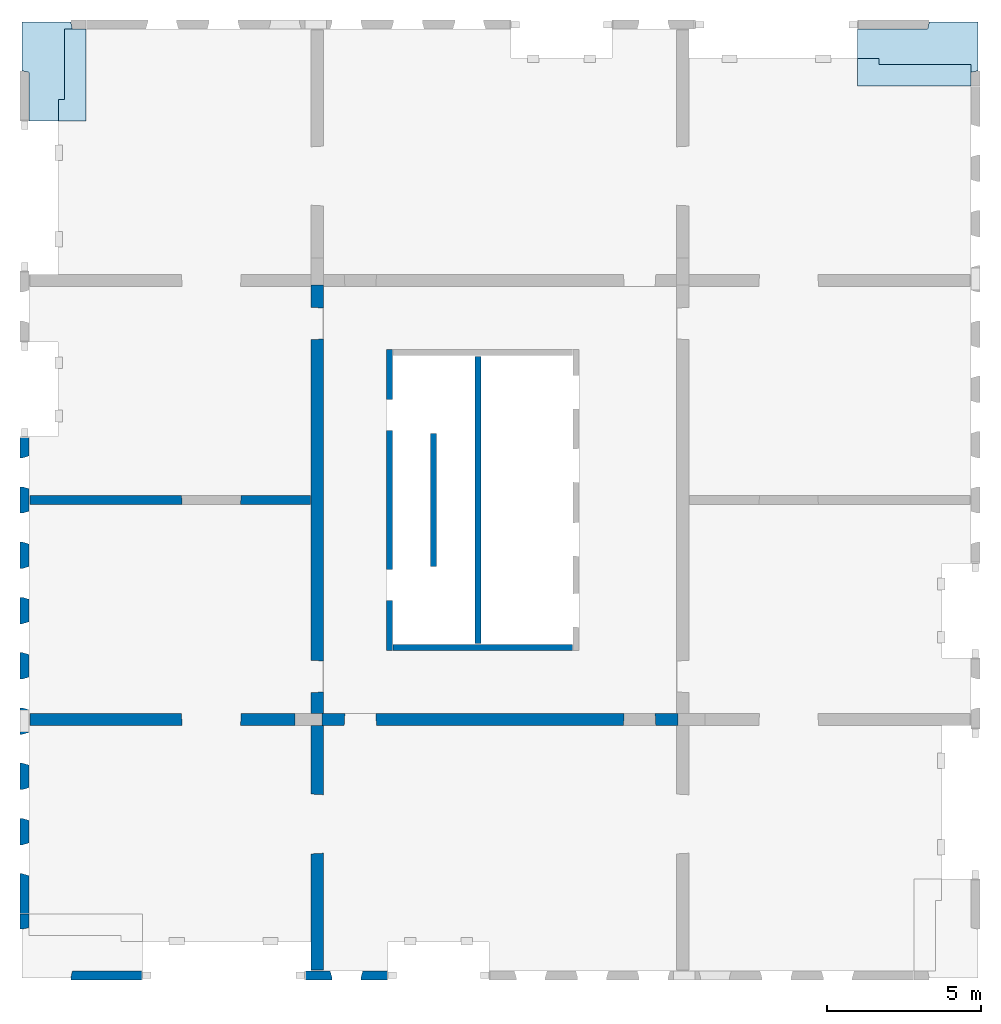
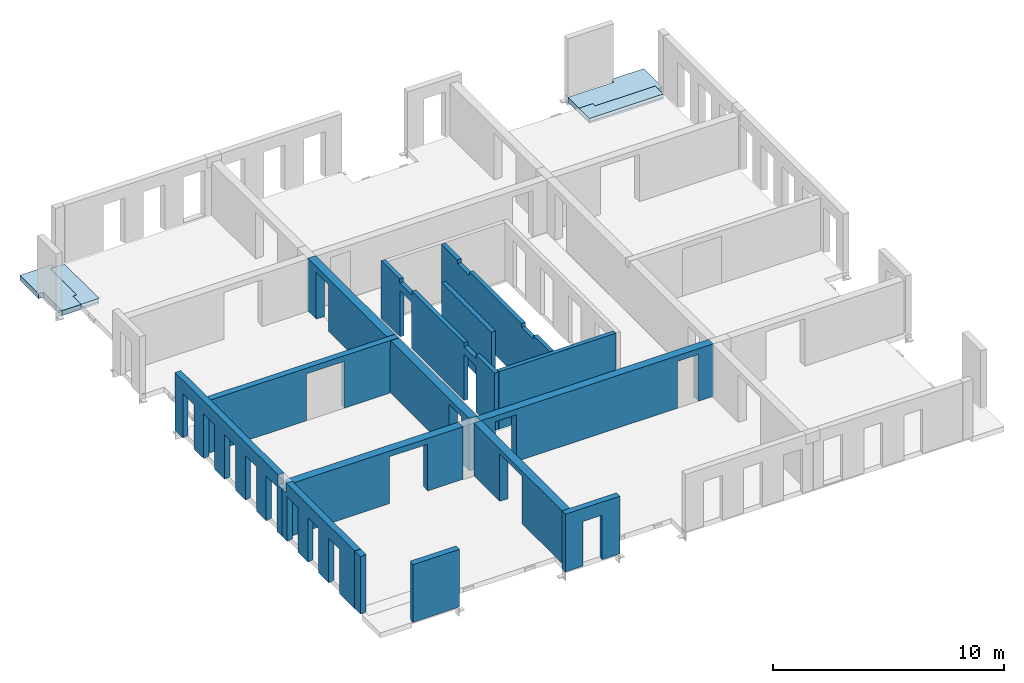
# One storey, part 2 of 4: 14 walls, 4 slabs, 34 openings.
"""IFC2X3 building model written with IfcOpenShell, lengths in millimetres."""

from ifc_helpers import new_model, entity, si_unit, converted_unit, derived_unit, direction, frame, frame_2d, origin, place, context, subcontext, project, spatial, polyline, rectangle, outline, extrude, faceted_brep, material, layer, layer_set, layer_usage, type_object, element, save


model = new_model("IFC2X3")

# Units and contexts
model_context = context("Model", 3, precision=0.01, world=origin(), true_north=direction((6.12303176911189e-17, 1.0)))
body_context = subcontext(model_context, "Body", "Model", "MODEL_VIEW")
ifc_project = project(units=[si_unit("LENGTHUNIT", "METRE", prefix="MILLI"), si_unit("AREAUNIT", "SQUARE_METRE"), si_unit("VOLUMEUNIT", "CUBIC_METRE"), converted_unit("PLANEANGLEUNIT", "DEGREE", entity("IfcRatioMeasure", 0.0174532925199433), si_unit("PLANEANGLEUNIT", "RADIAN"), dimensions=[0, 0, 0, 0, 0, 0, 0]), si_unit("MASSUNIT", "GRAM", prefix="KILO"), derived_unit("MASSDENSITYUNIT", [(si_unit("MASSUNIT", "GRAM", prefix="KILO"), 1), (si_unit("LENGTHUNIT", "METRE"), -3)]), si_unit("TIMEUNIT", "SECOND"), si_unit("FREQUENCYUNIT", "HERTZ"), si_unit("THERMODYNAMICTEMPERATUREUNIT", "DEGREE_CELSIUS"), derived_unit("THERMALTRANSMITTANCEUNIT", [(si_unit("MASSUNIT", "GRAM", prefix="KILO"), 1), (si_unit("THERMODYNAMICTEMPERATUREUNIT", "KELVIN"), -1), (si_unit("TIMEUNIT", "SECOND"), -3)]), derived_unit("VOLUMETRICFLOWRATEUNIT", [(si_unit("LENGTHUNIT", "METRE"), 3), (si_unit("TIMEUNIT", "SECOND"), -1)]), si_unit("ELECTRICCURRENTUNIT", "AMPERE"), si_unit("ELECTRICVOLTAGEUNIT", "VOLT"), si_unit("POWERUNIT", "WATT"), si_unit("FORCEUNIT", "NEWTON", prefix="KILO"), si_unit("ILLUMINANCEUNIT", "LUX"), si_unit("LUMINOUSFLUXUNIT", "LUMEN"), si_unit("LUMINOUSINTENSITYUNIT", "CANDELA"), derived_unit("USERDEFINED", [(si_unit("MASSUNIT", "GRAM", prefix="KILO"), -1), (si_unit("LENGTHUNIT", "METRE"), -2), (si_unit("TIMEUNIT", "SECOND"), 3), (si_unit("LUMINOUSFLUXUNIT", "LUMEN"), 1)]), derived_unit("LINEARVELOCITYUNIT", [(si_unit("LENGTHUNIT", "METRE"), 1), (si_unit("TIMEUNIT", "SECOND"), -1)]), si_unit("PRESSUREUNIT", "PASCAL"), derived_unit("USERDEFINED", [(si_unit("LENGTHUNIT", "METRE"), -2), (si_unit("MASSUNIT", "GRAM", prefix="KILO"), 1), (si_unit("TIMEUNIT", "SECOND"), -2)])], contexts=[model_context])

# Site, building, storey
site_placement = place(None, origin())
site = spatial("IfcSite", under=ifc_project, at=site_placement, Name="Default", CompositionType="ELEMENT")
building_placement = place(site_placement, origin())
building = spatial("IfcBuilding", under=site, at=building_placement, Name="niet gebruiken", CompositionType="ELEMENT")
storey_placement = place(building_placement, frame((0.0, 0.0, 106740.0)))
storey = spatial("IfcBuildingStorey", under=building, at=storey_placement, Name="34 vierendertigste verdieping", CompositionType="ELEMENT", Elevation=106740.0)

# Slabs
ifc_material_1 = material(Name="NLRS_f2_beton prefab")
ifc_layer_1 = layer(ifc_material_1, 270.0)
ifc_layer_set_1 = layer_set([ifc_layer_1], Name="Floor:NLRS_23.22_FL_beton prefab d=270 3D element_gen")
ifc_layer_usage_1 = layer_usage(ifc_layer_set_1, "AXIS3", "POSITIVE", 0.0)
slab_1_placement = place(storey_placement, origin())
element("IfcSlab", 1, at=slab_1_placement, inside=storey, material=ifc_layer_usage_1, Name="Floor:NLRS_23.22_FL_beton prefab d=270 3D element_gen", ObjectType="Floor:NLRS_23.22_FL_beton prefab d=270 3D element_gen", PredefinedType="LANDING", context=body_context, shape_type="SweptSolid", body=[
    extrude(outline(polyline([(-322.675940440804, -982.471394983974), (1267.47139498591, -982.471394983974), (1267.47139498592, 607.675940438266), (1034.47139498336, 655.152429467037), (1034.47139498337, 1100.5286050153), (-1955.52860501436, 1100.52860501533), (-1955.52860501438, -749.471394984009), (-370.152429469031, -749.471394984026), (-322.675940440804, -982.471394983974)])), frame((127169.471394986, 31795.5286050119, -90.0), z_axis=(0.0, 0.0, -1.0), x_axis=(0.0, 1.0, 0.0)), (0.0, 0.0, 1.0), 270.000000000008),
])
ifc_material_2 = material(Name="NLRS_f2_beton ihwg")
ifc_layer_2 = layer(ifc_material_2, 170.0)
ifc_layer_set_2 = layer_set([ifc_layer_2], Name="Floor:NLRS_23.21_FL_beton ihwg d=170_gen")
ifc_layer_usage_2 = layer_usage(ifc_layer_set_2, "AXIS3", "POSITIVE", 0.0)
slab_2_placement = place(storey_placement, origin())
element("IfcSlab", 2, at=slab_2_placement, inside=storey, material=ifc_layer_usage_2, Name="Floor:NLRS_23.21_FL_beton ihwg d=170_gen", ObjectType="Floor:NLRS_23.21_FL_beton ihwg d=170_gen", PredefinedType="FLOOR", context=body_context, shape_type="SweptSolid", body=[
    extrude(outline(polyline([(-1230.0, -366.666666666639), (-530.0, -366.666666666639), (-530.0, -166.66666666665), (1760.0, -166.666666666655), (1760.0, 533.333333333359), (-1230.0, 533.333333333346), (-1230.0, -366.666666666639)])), frame((127736.666666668, 31070.0, -90.0), z_axis=(0.0, 0.0, -1.0), x_axis=(0.0, 1.0, 0.0)), (0.0, 0.0, 1.0), 169.999999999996),
])
ifc_layer_usage_3 = layer_usage(ifc_layer_set_1, "AXIS3", "POSITIVE", 0.0)
slab_3_placement = place(storey_placement, origin())
element("IfcSlab", 3, at=slab_3_placement, inside=storey, material=ifc_layer_usage_3, Name="Floor:NLRS_23.22_FL_beton prefab d=270 3D element_gen", ObjectType="Floor:NLRS_23.22_FL_beton prefab d=270 3D element_gen", PredefinedType="LANDING", context=body_context, shape_type="SweptSolid", body=[
    extrude(outline(polyline([(-1100.52860501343, -2480.52860501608), (749.471394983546, -2480.52860501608), (749.471394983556, -195.152429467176), (982.471394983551, -147.675940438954), (982.471394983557, 1442.47139498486), (-607.675940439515, 1442.47139498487), (-655.152429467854, 1209.47139498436), (-1100.52860501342, 1209.47139498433), (-1100.52860501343, -2480.52860501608)])), frame((155870.528605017, 32080.5286050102, -90.0), z_axis=(0.0, 0.0, -1.0), x_axis=(0.0, 1.0, 0.0)), (0.0, 0.0, 1.0), 270.000000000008),
])
ifc_layer_usage_4 = layer_usage(ifc_layer_set_2, "AXIS3", "POSITIVE", 0.0)
slab_4_placement = place(storey_placement, origin())
element("IfcSlab", 4, at=slab_4_placement, inside=storey, material=ifc_layer_usage_4, Name="Floor:NLRS_23.21_FL_beton ihwg d=170_gen", ObjectType="Floor:NLRS_23.21_FL_beton ihwg d=170_gen", PredefinedType="FLOOR", context=body_context, shape_type="SweptSolid", body=[
    extrude(outline(polyline([(-533.333333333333, -1463.33333333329), (366.666666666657, -1463.33333333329), (366.666666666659, -763.333333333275), (166.66666666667, -763.333333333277), (166.666666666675, 2226.66666666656), (-533.333333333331, 2226.66666666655), (-533.333333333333, -1463.33333333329)])), frame((154853.333333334, 31513.3333333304, -90.0), z_axis=(0.0, 0.0, -1.0), x_axis=(0.0, 1.0, 0.0)), (0.0, 0.0, 1.0), 169.999999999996),
])

# Wall, openings
ifc_layer_3 = layer(ifc_material_1, 200.0)
ifc_layer_set_3 = layer_set([ifc_layer_3], Name="Basic Wall:NLRS_22.21_WA_beton prefab d=200_gen")
ifc_layer_usage_5 = layer_usage(ifc_layer_set_3, "AXIS2", "NEGATIVE", 100.0)
wall_type_1 = type_object("IfcWallType", Name="Basic Wall:NLRS_22.21_WA_beton prefab d=200_gen", PredefinedType="STANDARD", material=ifc_layer_set_3)
wall_1_placement = place(storey_placement, frame((138150.0, 22400.0, -50.0), z_axis=(0.0, 0.0, 1.0), x_axis=(0.0, -1.0, 0.0)))
wall_1 = element("IfcWallStandardCase", 5, at=wall_1_placement, inside=storey, type_object=wall_type_1, material=ifc_layer_usage_5, Name="Basic Wall:NLRS_22.21_WA_beton prefab d=200_gen", ObjectType="Basic Wall:NLRS_22.21_WA_beton prefab d=200_gen", context=body_context, shape_type="SweptSolid", body=[
    extrude(rectangle(XDim=9800.0, YDim=199.999999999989, at=frame_2d((4900.0, 3.76587649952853e-13), x_axis=(-1.0, 0.0))), origin(), (0.0, 0.0, 1.0), 3040.0),
])
opening_1_placement = place(wall_1_placement, origin())
element("IfcOpeningElement", 6, at=opening_1_placement, cuts=wall_1, Name="Basic Wall:NLRS_22.21_WA_beton prefab d=200_gen", ObjectType="Opening", context=body_context, shape_type="SweptSolid", body=[
    extrude(rectangle(XDim=200.000000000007, YDim=1044.0, at=frame_2d((8.66862137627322e-12, 0.0), x_axis=(1.0, 0.0))), frame((7672.0, -100.0, 2940.0), z_axis=(0.0, 1.0, 0.0), x_axis=(0.0, 0.0, -1.0)), (0.0, 0.0, 1.0), 199.999999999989),
])
opening_2_placement = place(wall_1_placement, origin())
element("IfcOpeningElement", 7, at=opening_2_placement, cuts=wall_1, Name="Basic Wall:NLRS_22.21_WA_beton prefab d=200_gen", ObjectType="Opening", context=body_context, shape_type="SweptSolid", body=[
    extrude(rectangle(XDim=200.000000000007, YDim=1044.0, at=frame_2d((8.66862137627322e-12, 2.1600499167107e-12), x_axis=(1.0, 0.0))), frame((2128.0, -100.0, 2940.0), z_axis=(0.0, 1.0, 0.0), x_axis=(0.0, 0.0, -1.0)), (0.0, 0.0, 1.0), 199.999999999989),
])
opening_3_placement = place(wall_1_placement, origin())
element("IfcOpeningElement", 8, at=opening_3_placement, cuts=wall_1, Name="Basic Wall:NLRS_22.21_WA_beton prefab d=200_gen", ObjectType="Opening", context=body_context, shape_type="SweptSolid", body=[
    extrude(rectangle(XDim=2435.0, YDim=1015.99999999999, at=frame_2d((0.0, 1.10844666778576e-12), x_axis=(1.0, 0.0))), frame((7672.0, -100.0, 1217.50000000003), z_axis=(0.0, 1.0, 0.0), x_axis=(0.0, 0.0, -1.0)), (0.0, 0.0, 1.0), 199.999999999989),
])
opening_4_placement = place(wall_1_placement, origin())
element("IfcOpeningElement", 9, at=opening_4_placement, cuts=wall_1, Name="Basic Wall:NLRS_22.21_WA_beton prefab d=200_gen", ObjectType="Opening", context=body_context, shape_type="SweptSolid", body=[
    extrude(rectangle(XDim=2435.0, YDim=1015.99999999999, at=frame_2d((0.0, -2.18847162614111e-12), x_axis=(1.0, 0.0))), frame((2128.0, -100.0, 1217.50000000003), z_axis=(0.0, 1.0, 0.0), x_axis=(0.0, 0.0, -1.0)), (0.0, 0.0, 1.0), 199.999999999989),
])

ifc_layer_usage_6 = layer_usage(ifc_layer_set_3, "AXIS2", "NEGATIVE", 100.0)
wall_2_placement = place(storey_placement, frame((141030.0, 22180.0, -50.0), z_axis=(0.0, 0.0, 1.0), x_axis=(0.0, -1.0, 0.0)))
wall_2 = element("IfcWallStandardCase", 10, at=wall_2_placement, inside=storey, type_object=wall_type_1, material=ifc_layer_usage_6, Name="Basic Wall:NLRS_22.21_WA_beton prefab d=200_gen", ObjectType="Basic Wall:NLRS_22.21_WA_beton prefab d=200_gen", context=body_context, shape_type="SweptSolid", body=[
    extrude(rectangle(XDim=9360.0, YDim=199.999999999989, at=frame_2d((4680.0, -2.8421709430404e-14), x_axis=(-1.0, 0.0))), origin(), (0.0, 0.0, 1.0), 3040.0),
])
opening_5_placement = place(wall_2_placement, origin())
element("IfcOpeningElement", 11, at=opening_5_placement, cuts=wall_2, Name="Basic Wall:NLRS_22.21_WA_beton prefab d=200_gen", ObjectType="Opening", context=body_context, shape_type="SweptSolid", body=[
    extrude(rectangle(XDim=70.0000000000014, YDim=1044.00000000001, at=frame_2d((-8.66506866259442e-12, 0.0), x_axis=(1.0, 0.0))), frame((7452.0, -100.0, 35.0), z_axis=(0.0, 1.0, 0.0), x_axis=(0.0, 0.0, -1.0)), (0.0, 0.0, 1.0), 199.999999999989),
])
opening_6_placement = place(wall_2_placement, origin())
element("IfcOpeningElement", 12, at=opening_6_placement, cuts=wall_2, Name="Basic Wall:NLRS_22.21_WA_beton prefab d=200_gen", ObjectType="Opening", context=body_context, shape_type="SweptSolid", body=[
    extrude(rectangle(XDim=70.0000000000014, YDim=1044.00000000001, at=frame_2d((-8.66506866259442e-12, 0.0), x_axis=(1.0, 0.0))), frame((1908.0, -100.0, 35.0), z_axis=(0.0, 1.0, 0.0), x_axis=(0.0, 0.0, -1.0)), (0.0, 0.0, 1.0), 199.999999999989),
])
opening_7_placement = place(wall_2_placement, origin())
element("IfcOpeningElement", 13, at=opening_7_placement, cuts=wall_2, Name="Basic Wall:NLRS_22.21_WA_beton prefab d=200_gen", ObjectType="Opening", context=body_context, shape_type="SweptSolid", body=[
    extrude(rectangle(XDim=200.000000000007, YDim=1044.00000000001, at=frame_2d((8.66862137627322e-12, 0.0), x_axis=(1.0, 0.0))), frame((1908.0, -100.0, 2940.0), z_axis=(0.0, 1.0, 0.0), x_axis=(0.0, 0.0, -1.0)), (0.0, 0.0, 1.0), 199.999999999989),
])
opening_8_placement = place(wall_2_placement, origin())
element("IfcOpeningElement", 14, at=opening_8_placement, cuts=wall_2, Name="Basic Wall:NLRS_22.21_WA_beton prefab d=200_gen", ObjectType="Opening", context=body_context, shape_type="SweptSolid", body=[
    extrude(rectangle(XDim=200.000000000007, YDim=1044.00000000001, at=frame_2d((8.66862137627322e-12, 0.0), x_axis=(1.0, 0.0))), frame((7452.0, -100.0, 2940.0), z_axis=(0.0, 1.0, 0.0), x_axis=(0.0, 0.0, -1.0)), (0.0, 0.0, 1.0), 199.999999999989),
])
opening_9_placement = place(wall_2_placement, origin())
element("IfcOpeningElement", 15, at=opening_9_placement, cuts=wall_2, Name="Basic Wall:NLRS_22.21_WA_beton prefab d=200_gen", ObjectType="Recess", context=body_context, shape_type="SweptSolid", body=[
    extrude(rectangle(XDim=399.999999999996, YDim=280.000000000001, at=frame_2d((-2.1600499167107e-12, -8.66862137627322e-12), x_axis=(0.0, 1.0))), frame((770.0, -60.0, 438.0), z_axis=(0.0, 1.0, 0.0), x_axis=(1.0, 0.0, 0.0)), (0.0, 0.0, 1.0), 159.999999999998),
])
opening_10_placement = place(wall_2_placement, origin())
element("IfcOpeningElement", 16, at=opening_10_placement, cuts=wall_2, Name="Basic Wall:NLRS_22.21_WA_beton prefab d=200_gen", ObjectType="Recess", context=body_context, shape_type="SweptSolid", body=[
    extrude(rectangle(XDim=399.999999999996, YDim=280.000000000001, at=frame_2d((-2.1600499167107e-12, -8.66862137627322e-12), x_axis=(0.0, 1.0))), frame((1570.0, -60.0, 438.0), z_axis=(0.0, 1.0, 0.0), x_axis=(1.0, 0.0, 0.0)), (0.0, 0.0, 1.0), 159.999999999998),
])
opening_11_placement = place(wall_2_placement, origin())
element("IfcOpeningElement", 17, at=opening_11_placement, cuts=wall_2, Name="Basic Wall:NLRS_22.21_WA_beton prefab d=200_gen", ObjectType="Recess", context=body_context, shape_type="SweptSolid", body=[
    extrude(rectangle(XDim=399.999999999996, YDim=279.999999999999, at=frame_2d((-1.08002495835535e-12, -8.66862137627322e-12), x_axis=(0.0, 1.0))), frame((3160.0, -60.0, 438.0), z_axis=(0.0, 1.0, 0.0), x_axis=(1.0, 0.0, 0.0)), (0.0, 0.0, 1.0), 159.999999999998),
])
opening_12_placement = place(wall_2_placement, origin())
element("IfcOpeningElement", 18, at=opening_12_placement, cuts=wall_2, Name="Basic Wall:NLRS_22.21_WA_beton prefab d=200_gen", ObjectType="Recess", context=body_context, shape_type="SweptSolid", body=[
    extrude(rectangle(XDim=399.999999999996, YDim=279.999999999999, at=frame_2d((1.08002495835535e-12, -8.66862137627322e-12), x_axis=(0.0, 1.0))), frame((3960.0, -60.0, 438.0), z_axis=(0.0, 1.0, 0.0), x_axis=(1.0, 0.0, 0.0)), (0.0, 0.0, 1.0), 159.999999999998),
])

# Walls
ifc_layer_usage_7 = layer_usage(ifc_layer_set_3, "AXIS2", "NEGATIVE", 100.0)
wall_3_placement = place(storey_placement, frame((139590.0, 19660.0, -50.0), z_axis=(0.0, 0.0, 1.0), x_axis=(0.0, -1.0, 0.0)))
element("IfcWallStandardCase", 19, at=wall_3_placement, inside=storey, type_object=wall_type_1, material=ifc_layer_usage_7, Name="Basic Wall:NLRS_22.21_WA_beton prefab d=200_gen", ObjectType="Basic Wall:NLRS_22.21_WA_beton prefab d=200_gen", context=body_context, shape_type="SweptSolid", body=[
    extrude(rectangle(XDim=4320.00000000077, YDim=199.999999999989, at=frame_2d((2160.00000000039, 0.0), x_axis=(-1.0, 0.0))), origin(), (0.0, 0.0, 1.0), 3040.0),
])
ifc_layer_usage_8 = layer_usage(ifc_layer_set_3, "AXIS2", "NEGATIVE", 100.0)
wall_4_placement = place(storey_placement, frame((138270.0, 12700.0, -50.0)))
element("IfcWallStandardCase", 20, at=wall_4_placement, inside=storey, type_object=wall_type_1, material=ifc_layer_usage_8, Name="Basic Wall:NLRS_22.21_WA_beton prefab d=200_gen", ObjectType="Basic Wall:NLRS_22.21_WA_beton prefab d=200_gen", context=body_context, shape_type="SweptSolid", body=[
    extrude(rectangle(XDim=5839.99999999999, YDim=199.999999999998, at=frame_2d((2919.99999999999, -6.82121026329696e-13), x_axis=(-1.0, 0.0))), origin(), (0.0, 0.0, 1.0), 3040.0),
])

# Wall, openings
ifc_layer_4 = layer(ifc_material_1, 300.0)
ifc_layer_set_4 = layer_set([ifc_layer_4], Name="Basic Wall:NLRS_22.21_WA_beton prefab d=300_gen")
ifc_layer_usage_9 = layer_usage(ifc_layer_set_4, "AXIS2", "NEGATIVE", 150.0)
wall_type_2 = type_object("IfcWallType", Name="Basic Wall:NLRS_22.21_WA_beton prefab d=300_gen", PredefinedType="STANDARD", material=ifc_layer_set_4)
wall_5_placement = place(storey_placement, frame((126440.0, 17500.0, -70.0)))
wall_5 = element("IfcWallStandardCase", 21, at=wall_5_placement, inside=storey, type_object=wall_type_2, material=ifc_layer_usage_9, Name="Basic Wall:NLRS_22.21_WA_beton prefab d=300_gen", ObjectType="Basic Wall:NLRS_22.21_WA_beton prefab d=300_gen", context=body_context, shape_type="SweptSolid", body=[
    extrude(rectangle(XDim=9559.9999999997, YDim=300.000000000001, at=frame_2d((4779.99999999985, -5.54223333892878e-13), x_axis=(-1.0, 0.0))), origin(), (0.0, 0.0, 1.0), 2769.99999999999),
])
opening_13_placement = place(wall_5_placement, frame((4942.0, -150.0, 0.0)))
element("IfcOpeningElement", 22, at=opening_13_placement, cuts=wall_5, Name="Basic Wall:NLRS_22.21_WA_beton prefab d=300_gen", ObjectType="Opening", context=body_context, shape_type="Brep", body=[
    faceted_brep([(1918.0, 0.0, 2470.0), (18.0, 0.0, 2470.0), (18.0, 0.0, 0.0), (1918.0, 0.0, 0.0), (1936.0, 300.0, 2488.0), (1936.0, 300.0, 0.0), (0.0, 300.0, 0.0), (0.0, 300.0, 2488.0)], [[[0, 1, 2, 3]], [[4, 5, 6, 7]], [[4, 7, 1, 0]], [[7, 6, 2, 1]], [[6, 5, 3, 2]], [[5, 4, 0, 3]]]),
])
opening_14_placement = place(wall_5_placement, origin())
element("IfcOpeningElement", 23, at=opening_14_placement, cuts=wall_5, Name="Basic Wall:NLRS_22.21_WA_beton prefab d=300_gen", ObjectType="Opening", context=body_context, shape_type="SweptSolid", body=[
    extrude(rectangle(XDim=2440.0, YDim=420.000000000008, at=frame_2d((0.0, 0.0), x_axis=(0.0, 1.0))), frame((9350.0, 150.0, 1220.0), z_axis=(0.0, -1.0, 0.0), x_axis=(1.0, 0.0, 0.0)), (0.0, 0.0, 1.0), 300.0),
])

# Wall, opening
ifc_layer_5 = layer(ifc_material_1, 400.0)
ifc_layer_set_5 = layer_set([ifc_layer_5], Name="Basic Wall:NLRS_22.21_WA_beton prefab d=400_gen")
ifc_layer_usage_10 = layer_usage(ifc_layer_set_5, "AXIS2", "NEGATIVE", 200.0)
wall_type_3 = type_object("IfcWallType", Name="Basic Wall:NLRS_22.21_WA_beton prefab d=400_gen", PredefinedType="STANDARD", material=ifc_layer_set_5)
wall_6_placement = place(storey_placement, frame((135800.0, 10150.0, -70.0), z_axis=(0.0, 0.0, 1.0), x_axis=(0.0, -1.0, 0.0)))
wall_6 = element("IfcWallStandardCase", 24, at=wall_6_placement, inside=storey, type_object=wall_type_3, material=ifc_layer_usage_10, Name="Basic Wall:NLRS_22.21_WA_beton prefab d=400_gen", ObjectType="Basic Wall:NLRS_22.21_WA_beton prefab d=400_gen", context=body_context, shape_type="SweptSolid", body=[
    extrude(rectangle(XDim=7959.99999999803, YDim=400.000000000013, at=frame_2d((3979.99999999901, 4.54747350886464e-13), x_axis=(-1.0, 0.0))), origin(), (0.0, 0.0, 1.0), 2770.00000000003),
])
opening_15_placement = place(wall_6_placement, frame((4174.0, -200.0, 0.0)))
element("IfcOpeningElement", 25, at=opening_15_placement, cuts=wall_6, Name="Basic Wall:NLRS_22.21_WA_beton prefab d=400_gen", ObjectType="Opening", context=body_context, shape_type="Brep", body=[
    faceted_brep([(-24.0, 400.0, 2470.0), (-24.0, 400.0, 0.0), (-1924.0, 400.0, 0.0), (-1924.0, 400.0, 2470.0), (0.0, 0.0, 2494.0), (-1948.0, 0.0, 2494.0), (-1948.0, 0.0, 0.0), (0.0, 0.0, 0.0)], [[[0, 1, 2, 3]], [[4, 5, 6, 7]], [[4, 0, 3, 5]], [[5, 3, 2, 6]], [[6, 2, 1, 7]], [[7, 1, 0, 4]]]),
])

# Wall, openings
ifc_layer_usage_11 = layer_usage(ifc_layer_set_5, "AXIS2", "NEGATIVE", 200.0)
wall_7_placement = place(storey_placement, frame((135950.003540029, 10350.0, -70.0)))
wall_7 = element("IfcWallStandardCase", 26, at=wall_7_placement, inside=storey, type_object=wall_type_3, material=ifc_layer_usage_11, Name="Basic Wall:NLRS_22.21_WA_beton prefab d=400_gen", ObjectType="Basic Wall:NLRS_22.21_WA_beton prefab d=400_gen", context=body_context, shape_type="SweptSolid", body=[
    extrude(rectangle(XDim=11599.9964599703, YDim=400.0, at=frame_2d((5799.99822998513, 1.56319401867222e-13), x_axis=(-1.0, 0.0))), origin(), (0.0, 0.0, 1.0), 2770.00000000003),
])
opening_16_placement = place(wall_7_placement, frame((725.996459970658, -200.0, 0.0)))
element("IfcOpeningElement", 27, at=opening_16_placement, cuts=wall_7, Name="Basic Wall:NLRS_22.21_WA_beton prefab d=400_gen", ObjectType="Opening", context=body_context, shape_type="Brep", body=[
    faceted_brep([(0.0, 0.0, 2472.0), (24.0, 400.0, 2448.0), (24.0, 400.0, 0.0), (0.0, 0.0, 0.0), (1030.0, 400.0, 0.0), (1054.0, 0.0, 0.0), (1030.0, 400.0, 2448.0), (1054.0, 0.0, 2472.0)], [[[0, 1, 2, 3]], [[3, 2, 4, 5]], [[6, 4, 2, 1]], [[7, 0, 3, 5]], [[7, 6, 1, 0]], [[5, 4, 6, 7]]]),
])
opening_17_placement = place(wall_7_placement, frame((9819.99645997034, -200.0, 0.0)))
element("IfcOpeningElement", 28, at=opening_17_placement, cuts=wall_7, Name="Basic Wall:NLRS_22.21_WA_beton prefab d=400_gen", ObjectType="Opening", context=body_context, shape_type="Brep", body=[
    faceted_brep([(0.0, 0.0, 2472.0), (24.0, 400.0, 2448.0), (24.0, 400.0, 0.0), (0.0, 0.0, 0.0), (1030.0, 400.0, 0.0), (1054.0, 0.0, 0.0), (1030.0, 400.0, 2448.0), (1054.0, 0.0, 2472.0)], [[[0, 1, 2, 3]], [[3, 2, 4, 5]], [[6, 4, 2, 1]], [[7, 0, 3, 5]], [[7, 6, 1, 0]], [[5, 4, 6, 7]]]),
])

# Wall, opening
ifc_layer_usage_12 = layer_usage(ifc_layer_set_5, "AXIS2", "NEGATIVE", 200.0)
wall_8_placement = place(storey_placement, frame((126440.0, 10350.0, -70.0)))
wall_8 = element("IfcWallStandardCase", 29, at=wall_8_placement, inside=storey, type_object=wall_type_3, material=ifc_layer_usage_12, Name="Basic Wall:NLRS_22.21_WA_beton prefab d=400_gen", ObjectType="Basic Wall:NLRS_22.21_WA_beton prefab d=400_gen", context=body_context, shape_type="SweptSolid", body=[
    extrude(rectangle(XDim=8630.00354002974, YDim=400.0, at=frame_2d((4315.00177001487, -2.70006239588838e-13), x_axis=(-1.0, 0.0))), origin(), (0.0, 0.0, 1.0), 2770.00000000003),
])
opening_18_placement = place(wall_8_placement, frame((4936.0, -200.0, 0.0)))
element("IfcOpeningElement", 30, at=opening_18_placement, cuts=wall_8, Name="Basic Wall:NLRS_22.21_WA_beton prefab d=400_gen", ObjectType="Opening", context=body_context, shape_type="Brep", body=[
    faceted_brep([(1924.0, 0.0, 2470.0), (24.0, 0.0, 2470.0), (24.0, 0.0, 0.0), (1924.0, 0.0, 0.0), (1948.0, 400.0, 2494.0), (1948.0, 400.0, 0.0), (0.0, 400.0, 0.0), (0.0, 400.0, 2494.0)], [[[0, 1, 2, 3]], [[4, 5, 6, 7]], [[4, 7, 1, 0]], [[7, 6, 2, 1]], [[6, 5, 3, 2]], [[5, 4, 0, 3]]]),
])

# Wall, openings
ifc_layer_usage_13 = layer_usage(ifc_layer_set_5, "AXIS2", "NEGATIVE", 200.0)
wall_9_placement = place(storey_placement, frame((135800.0, 24500.0, -70.0), z_axis=(0.0, 0.0, 1.0), x_axis=(0.0, -1.0, 0.0)))
wall_9 = element("IfcWallStandardCase", 31, at=wall_9_placement, inside=storey, type_object=wall_type_3, material=ifc_layer_usage_13, Name="Basic Wall:NLRS_22.21_WA_beton prefab d=400_gen", ObjectType="Basic Wall:NLRS_22.21_WA_beton prefab d=400_gen", context=body_context, shape_type="SweptSolid", body=[
    extrude(rectangle(XDim=13950.0, YDim=400.000000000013, at=frame_2d((6974.99999999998, 2.8421709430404e-14), x_axis=(-1.0, 0.0))), origin(), (0.0, 0.0, 1.0), 2770.00000000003),
])
opening_19_placement = place(wall_9_placement, frame((13274.0, -200.0, 0.0)))
element("IfcOpeningElement", 32, at=opening_19_placement, cuts=wall_9, Name="Basic Wall:NLRS_22.21_WA_beton prefab d=400_gen", ObjectType="Opening", context=body_context, shape_type="Brep", body=[
    faceted_brep([(-1054.0, 0.0, 2472.0), (-1030.0, 400.0, 2448.0), (-1030.0, 400.0, 0.0), (-1054.0, 0.0, 0.0), (-24.0, 400.0, 0.0), (0.0, 0.0, 0.0), (-24.0, 400.0, 2448.0), (0.0, 0.0, 2472.0)], [[[0, 1, 2, 3]], [[3, 2, 4, 5]], [[6, 4, 2, 1]], [[7, 0, 3, 5]], [[7, 6, 1, 0]], [[5, 4, 6, 7]]]),
])
opening_20_placement = place(wall_9_placement, frame((1780.0, -200.0, 0.0)))
element("IfcOpeningElement", 33, at=opening_20_placement, cuts=wall_9, Name="Basic Wall:NLRS_22.21_WA_beton prefab d=400_gen", ObjectType="Opening", context=body_context, shape_type="Brep", body=[
    faceted_brep([(-1054.0, 0.0, 2472.0), (-1030.0, 400.0, 2448.0), (-1030.0, 400.0, 0.0), (-1054.0, 0.0, 0.0), (-24.0, 400.0, 0.0), (0.0, 0.0, 0.0), (-24.0, 400.0, 2448.0), (0.0, 0.0, 2472.0)], [[[0, 1, 2, 3]], [[3, 2, 4, 5]], [[6, 4, 2, 1]], [[7, 0, 3, 5]], [[7, 6, 1, 0]], [[5, 4, 6, 7]]]),
])
opening_21_placement = place(wall_9_placement, origin())
element("IfcOpeningElement", 34, at=opening_21_placement, cuts=wall_9, Name="Basic Wall:NLRS_22.21_WA_beton prefab d=400_gen", ObjectType="Opening", context=body_context, shape_type="SweptSolid", body=[
    extrude(rectangle(XDim=350.000000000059, YDim=339.999999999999, at=frame_2d((-1.08002495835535e-12, 0.0), x_axis=(0.0, 1.0))), frame((7000.0, 200.0, 2595.0), z_axis=(0.0, -1.0, 0.0), x_axis=(-1.0, 0.0, 0.0)), (0.0, 0.0, 1.0), 400.0),
])

# Wall, opening
ifc_layer_6 = layer(ifc_material_1, 300.0)
ifc_layer_set_6 = layer_set([ifc_layer_6], Name="Basic Wall:NLRS_21.21_WA_beton prefab d=300/320_gen")
ifc_layer_usage_14 = layer_usage(ifc_layer_set_6, "AXIS2", "NEGATIVE", 150.0)
wall_type_4 = type_object("IfcWallType", Name="Basic Wall:NLRS_21.21_WA_beton prefab d=300/320_gen", PredefinedType="STANDARD", material=ifc_layer_set_6)
wall_10_placement = place(storey_placement, frame((138110.0, 2020.0, -50.0), z_axis=(0.0, 0.0, 1.0), x_axis=(-1.0, 0.0, 0.0)))
wall_10 = element("IfcWallStandardCase", 35, at=wall_10_placement, inside=storey, type_object=wall_type_4, material=ifc_layer_usage_14, Name="Basic Wall:NLRS_21.21_WA_beton prefab d=300/320_gen", ObjectType="Basic Wall:NLRS_21.21_WA_beton prefab d=300/320_gen", context=body_context, shape_type="SweptSolid", body=[
    extrude(rectangle(XDim=2720.00000000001, YDim=300.0, at=frame_2d((1360.0, -8.5265128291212e-14), x_axis=(-1.0, 0.0))), origin(), (0.0, 0.0, 1.0), 3040.0),
])
opening_22_placement = place(wall_10_placement, frame((1895.0, 150.0, -20.0)))
element("IfcOpeningElement", 36, at=opening_22_placement, cuts=wall_10, Name="Basic Wall:NLRS_21.21_WA_beton prefab d=300/320_gen", ObjectType="Opening", context=body_context, shape_type="Brep", body=[
    faceted_brep([(-1070.0, -300.0, 2405.0), (-1070.0, -300.0, 0.0), (0.0, -300.0, 0.0), (0.0, -300.0, 2405.0), (-65.0, -81.0, 2370.0), (-1005.0, -81.0, 2370.0), (-65.0, -81.0, 0.0), (-1005.0, -81.0, 0.0), (-1005.0, 0.0, 0.0), (-65.0, 0.0, 0.0), (-1005.0, 0.0, 2370.0), (-65.0, 0.0, 2370.0)], [[[0, 1, 2, 3]], [[3, 4, 5, 0]], [[2, 6, 4, 3]], [[1, 7, 8, 9, 6, 2]], [[0, 5, 7, 1]], [[10, 11, 9, 8]], [[10, 5, 4, 11]], [[11, 4, 6, 9]], [[8, 7, 5, 10]]]),
])

# Wall, openings
ifc_layer_usage_15 = layer_usage(ifc_layer_set_6, "AXIS2", "NEGATIVE", 150.0)
wall_11_placement = place(storey_placement, frame((126270.0, 4040.0, -50.0), z_axis=(0.0, 0.0, 1.0), x_axis=(0.0, 1.0, 0.0)))
wall_11 = element("IfcWallStandardCase", 37, at=wall_11_placement, inside=storey, type_object=wall_type_4, material=ifc_layer_usage_15, Name="Basic Wall:NLRS_21.21_WA_beton prefab d=300/320_gen", ObjectType="Basic Wall:NLRS_21.21_WA_beton prefab d=300/320_gen", context=body_context, shape_type="SweptSolid", body=[
    extrude(rectangle(XDim=6249.99999999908, YDim=300.000000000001, at=frame_2d((3124.99999999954, 0.0), x_axis=(-1.0, 0.0))), origin(), (0.0, 0.0, 1.0), 3039.99999999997),
])
opening_23_placement = place(wall_11_placement, frame((1225.0, 150.0, -20.0)))
element("IfcOpeningElement", 38, at=opening_23_placement, cuts=wall_11, Name="Basic Wall:NLRS_21.21_WA_beton prefab d=300/320_gen", ObjectType="Opening", context=body_context, shape_type="Brep", body=[
    faceted_brep([(0.0, -300.0, 2405.0), (0.0, -300.0, 0.0), (1070.0, -300.0, 0.0), (1070.0, -300.0, 2405.0), (1005.0, -81.0, 2370.0), (65.0, -81.0, 2370.0), (1005.0, -81.0, 0.0), (65.0, -81.0, 0.0), (65.0, 0.0, 0.0), (1005.0, 0.0, 0.0), (65.0, 0.0, 2370.0), (1005.0, 0.0, 2370.0)], [[[0, 1, 2, 3]], [[3, 4, 5, 0]], [[2, 6, 4, 3]], [[1, 7, 8, 9, 6, 2]], [[0, 5, 7, 1]], [[10, 11, 9, 8]], [[10, 5, 4, 11]], [[11, 4, 6, 9]], [[8, 7, 5, 10]]]),
])
opening_24_placement = place(wall_11_placement, frame((3025.0, 150.0, -20.0)))
element("IfcOpeningElement", 39, at=opening_24_placement, cuts=wall_11, Name="Basic Wall:NLRS_21.21_WA_beton prefab d=300/320_gen", ObjectType="Opening", context=body_context, shape_type="Brep", body=[
    faceted_brep([(0.0, -300.0, 2405.0), (0.0, -300.0, 0.0), (1070.0, -300.0, 0.0), (1070.0, -300.0, 2405.0), (1005.0, -81.0, 2370.0), (65.0, -81.0, 2370.0), (1005.0, -81.0, 0.0), (65.0, -81.0, 0.0), (65.0, 0.0, 0.0), (1005.0, 0.0, 0.0), (65.0, 0.0, 2370.0), (1005.0, 0.0, 2370.0)], [[[0, 1, 2, 3]], [[3, 4, 5, 0]], [[2, 6, 4, 3]], [[1, 7, 8, 9, 6, 2]], [[0, 5, 7, 1]], [[10, 11, 9, 8]], [[10, 5, 4, 11]], [[11, 4, 6, 9]], [[8, 7, 5, 10]]]),
])
opening_25_placement = place(wall_11_placement, frame((4825.0, 150.0, -20.0)))
element("IfcOpeningElement", 40, at=opening_25_placement, cuts=wall_11, Name="Basic Wall:NLRS_21.21_WA_beton prefab d=300/320_gen", ObjectType="Opening", context=body_context, shape_type="Brep", body=[
    faceted_brep([(0.0, -300.0, 2405.0), (0.0, -300.0, 0.0), (1070.0, -300.0, 0.0), (1070.0, -300.0, 2405.0), (1005.0, -81.0, 2370.0), (65.0, -81.0, 2370.0), (1005.0, -81.0, 0.0), (65.0, -81.0, 0.0), (65.0, 0.0, 0.0), (1005.0, 0.0, 0.0), (65.0, 0.0, 2370.0), (1005.0, 0.0, 2370.0)], [[[0, 1, 2, 3]], [[3, 4, 5, 0]], [[2, 6, 4, 3]], [[1, 7, 8, 9, 6, 2]], [[0, 5, 7, 1]], [[10, 11, 9, 8]], [[10, 5, 4, 11]], [[11, 4, 6, 9]], [[8, 7, 5, 10]]]),
])
opening_26_placement = place(wall_11_placement, origin())
element("IfcOpeningElement", 41, at=opening_26_placement, cuts=wall_11, Name="Basic Wall:NLRS_21.21_WA_beton prefab d=300/320_gen", ObjectType="Opening", context=body_context, shape_type="SweptSolid", body=[
    extrude(rectangle(XDim=534.99999999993, YDim=344.999999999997, at=frame_2d((0.0, 1.08002495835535e-12), x_axis=(1.0, 0.0))), frame((6077.49999999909, 150.0, 2772.5), z_axis=(0.0, -1.0, 0.0), x_axis=(0.0, 0.0, 1.0)), (0.0, 0.0, 1.0), 300.0),
])

# Wall, opening
ifc_layer_usage_16 = layer_usage(ifc_layer_set_6, "AXIS2", "NEGATIVE", 150.0)
wall_12_placement = place(storey_placement, frame((130110.0, 2020.0, -50.0), z_axis=(0.0, 0.0, 1.0), x_axis=(-1.0, 0.0, 0.0)))
wall_12 = element("IfcWallStandardCase", 42, at=wall_12_placement, inside=storey, type_object=wall_type_4, material=ifc_layer_usage_16, Name="Basic Wall:NLRS_21.21_WA_beton prefab d=300/320_gen", ObjectType="Basic Wall:NLRS_21.21_WA_beton prefab d=300/320_gen", context=body_context, shape_type="SweptSolid", body=[
    extrude(rectangle(XDim=2330.00000000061, YDim=300.0, at=frame_2d((1165.00000000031, -5.6843418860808e-14), x_axis=(-1.0, 0.0))), origin(), (0.0, 0.0, 1.0), 3040.0),
])
opening_27_placement = place(wall_12_placement, frame((2330.0, 69.0, 0.0)))
element("IfcOpeningElement", 43, at=opening_27_placement, cuts=wall_12, Name="Basic Wall:NLRS_21.21_WA_beton prefab d=300/320_gen", ObjectType="Opening", context=body_context, shape_type="Brep", body=[
    faceted_brep([(0.0, -319.0, 3040.0), (0.0, 0.0, 3040.0), (-65.0, -319.0, 3040.0), (0.0, -319.0, 0.0), (-65.0, -319.0, 0.0), (0.0, 0.0, 0.0)], [[[0, 1, 2]], [[3, 4, 5]], [[2, 4, 3, 0]], [[0, 3, 5, 1]], [[1, 5, 4, 2]]]),
])

ifc_layer_usage_17 = layer_usage(ifc_layer_set_6, "AXIS2", "NEGATIVE", 150.0)
wall_13_placement = place(storey_placement, frame((126270.0, 3530.0, -50.0), z_axis=(0.0, 0.0, 1.0), x_axis=(0.0, 1.0, 0.0)))
wall_13 = element("IfcWallStandardCase", 44, at=wall_13_placement, inside=storey, type_object=wall_type_4, material=ifc_layer_usage_17, Name="Basic Wall:NLRS_21.21_WA_beton prefab d=300/320_gen", ObjectType="Basic Wall:NLRS_21.21_WA_beton prefab d=300/320_gen", context=body_context, shape_type="SweptSolid", body=[
    extrude(rectangle(XDim=489.999999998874, YDim=300.000000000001, at=frame_2d((244.999999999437, -3.25428572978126e-12), x_axis=(-1.0, 0.0))), origin(), (0.0, 0.0, 1.0), 3040.0),
])
opening_28_placement = place(wall_13_placement, frame((-1.97405825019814e-09, 69.0, 0.0)))
element("IfcOpeningElement", 45, at=opening_28_placement, cuts=wall_13, Name="Basic Wall:NLRS_21.21_WA_beton prefab d=300/320_gen", ObjectType="Opening", context=body_context, shape_type="Brep", body=[
    faceted_brep([(0.0, -319.0, 3040.0), (65.0, -319.0, 3040.0), (0.0, 0.0, 3040.0), (0.0, -319.0, 0.0), (0.0, 0.0, 0.0), (65.0, -319.0, 0.0)], [[[0, 1, 2]], [[3, 4, 5]], [[1, 0, 3, 5]], [[0, 2, 4, 3]], [[2, 1, 5, 4]]]),
])

# Wall, openings
ifc_layer_usage_18 = layer_usage(ifc_layer_set_6, "AXIS2", "NEGATIVE", 150.0)
wall_14_placement = place(storey_placement, frame((126270.0, 10310.0, -50.0), z_axis=(0.0, 0.0, 1.0), x_axis=(0.0, 1.0, 0.0)))
wall_14 = element("IfcWallStandardCase", 46, at=wall_14_placement, inside=storey, type_object=wall_type_4, material=ifc_layer_usage_18, Name="Basic Wall:NLRS_21.21_WA_beton prefab d=300/320_gen", ObjectType="Basic Wall:NLRS_21.21_WA_beton prefab d=300/320_gen", context=body_context, shape_type="SweptSolid", body=[
    extrude(rectangle(XDim=9250.00000000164, YDim=300.000000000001, at=frame_2d((4625.00000000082, 0.0), x_axis=(-1.0, 0.0))), origin(), (0.0, 0.0, 1.0), 3040.0),
])
opening_29_placement = place(wall_14_placement, frame((7555.0, 150.0, -20.0)))
element("IfcOpeningElement", 47, at=opening_29_placement, cuts=wall_14, Name="Basic Wall:NLRS_21.21_WA_beton prefab d=300/320_gen", ObjectType="Opening", context=body_context, shape_type="Brep", body=[
    faceted_brep([(0.0, -300.0, 2405.0), (0.0, -300.0, 0.0), (1070.0, -300.0, 0.0), (1070.0, -300.0, 2405.0), (1005.0, -81.0, 2370.0), (65.0, -81.0, 2370.0), (1005.0, -81.0, 0.0), (65.0, -81.0, 0.0), (65.0, 0.0, 0.0), (1005.0, 0.0, 0.0), (65.0, 0.0, 2370.0), (1005.0, 0.0, 2370.0)], [[[0, 1, 2, 3]], [[3, 4, 5, 0]], [[2, 6, 4, 3]], [[1, 7, 8, 9, 6, 2]], [[0, 5, 7, 1]], [[10, 11, 9, 8]], [[10, 5, 4, 11]], [[11, 4, 6, 9]], [[8, 7, 5, 10]]]),
])
opening_30_placement = place(wall_14_placement, frame((3955.0, 150.0, -20.0)))
element("IfcOpeningElement", 48, at=opening_30_placement, cuts=wall_14, Name="Basic Wall:NLRS_21.21_WA_beton prefab d=300/320_gen", ObjectType="Opening", context=body_context, shape_type="Brep", body=[
    faceted_brep([(0.0, -300.0, 2405.0), (0.0, -300.0, 0.0), (1070.0, -300.0, 0.0), (1070.0, -300.0, 2405.0), (1005.0, -81.0, 2370.0), (65.0, -81.0, 2370.0), (1005.0, -81.0, 0.0), (65.0, -81.0, 0.0), (65.0, 0.0, 0.0), (1005.0, 0.0, 0.0), (65.0, 0.0, 2370.0), (1005.0, 0.0, 2370.0)], [[[0, 1, 2, 3]], [[3, 4, 5, 0]], [[2, 6, 4, 3]], [[1, 7, 8, 9, 6, 2]], [[0, 5, 7, 1]], [[10, 11, 9, 8]], [[10, 5, 4, 11]], [[11, 4, 6, 9]], [[8, 7, 5, 10]]]),
])
opening_31_placement = place(wall_14_placement, frame((2155.0, 150.0, -20.0)))
element("IfcOpeningElement", 49, at=opening_31_placement, cuts=wall_14, Name="Basic Wall:NLRS_21.21_WA_beton prefab d=300/320_gen", ObjectType="Opening", context=body_context, shape_type="Brep", body=[
    faceted_brep([(0.0, -300.0, 2405.0), (0.0, -300.0, 0.0), (1070.0, -300.0, 0.0), (1070.0, -300.0, 2405.0), (1005.0, -81.0, 2370.0), (65.0, -81.0, 2370.0), (1005.0, -81.0, 0.0), (65.0, -81.0, 0.0), (65.0, 0.0, 0.0), (1005.0, 0.0, 0.0), (65.0, 0.0, 2370.0), (1005.0, 0.0, 2370.0)], [[[0, 1, 2, 3]], [[3, 4, 5, 0]], [[2, 6, 4, 3]], [[1, 7, 8, 9, 6, 2]], [[0, 5, 7, 1]], [[10, 11, 9, 8]], [[10, 5, 4, 11]], [[11, 4, 6, 9]], [[8, 7, 5, 10]]]),
])
opening_32_placement = place(wall_14_placement, frame((5755.0, 150.0, -20.0)))
element("IfcOpeningElement", 50, at=opening_32_placement, cuts=wall_14, Name="Basic Wall:NLRS_21.21_WA_beton prefab d=300/320_gen", ObjectType="Opening", context=body_context, shape_type="Brep", body=[
    faceted_brep([(0.0, -300.0, 2405.0), (0.0, -300.0, 0.0), (1070.0, -300.0, 0.0), (1070.0, -300.0, 2405.0), (1005.0, -81.0, 2370.0), (65.0, -81.0, 2370.0), (1005.0, -81.0, 0.0), (65.0, -81.0, 0.0), (65.0, 0.0, 0.0), (1005.0, 0.0, 0.0), (65.0, 0.0, 2370.0), (1005.0, 0.0, 2370.0)], [[[0, 1, 2, 3]], [[3, 4, 5, 0]], [[2, 6, 4, 3]], [[1, 7, 8, 9, 6, 2]], [[0, 5, 7, 1]], [[10, 11, 9, 8]], [[10, 5, 4, 11]], [[11, 4, 6, 9]], [[8, 7, 5, 10]]]),
])
opening_33_placement = place(wall_14_placement, frame((355.0, 150.0, -20.0)))
element("IfcOpeningElement", 51, at=opening_33_placement, cuts=wall_14, Name="Basic Wall:NLRS_21.21_WA_beton prefab d=300/320_gen", ObjectType="Opening", context=body_context, shape_type="Brep", body=[
    faceted_brep([(1070.0, -300.0, 2405.0), (0.0, -300.0, 2405.0), (0.0, -300.0, 0.0), (1070.0, -300.0, 0.0), (1005.0, -81.0, 2370.0), (65.0, -81.0, 2370.0), (65.0, -81.0, 0.0), (65.0, 0.0, 0.0), (1005.0, 0.0, 0.0), (1005.0, -81.0, 0.0), (1005.0, 0.0, 2370.0), (65.0, 0.0, 2370.0)], [[[0, 1, 2, 3]], [[1, 0, 4, 5]], [[2, 1, 5, 6]], [[3, 2, 6, 7, 8, 9]], [[0, 3, 9, 4]], [[10, 8, 7, 11]], [[10, 11, 5, 4]], [[11, 7, 6, 5]], [[8, 10, 4, 9]]]),
])
opening_34_placement = place(wall_14_placement, origin())
element("IfcOpeningElement", 52, at=opening_34_placement, cuts=wall_14, Name="Basic Wall:NLRS_21.21_WA_beton prefab d=300/320_gen", ObjectType="Opening", context=body_context, shape_type="SweptSolid", body=[
    extrude(rectangle(XDim=535.0, YDim=345.000000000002, at=frame_2d((1.08002495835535e-12, 0.0), x_axis=(0.0, 1.0))), frame((172.500000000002, 150.0, 2772.5), z_axis=(0.0, -1.0, 0.0), x_axis=(-1.0, 0.0, 0.0)), (0.0, 0.0, 1.0), 300.0),
])

save(model, "model.ifc")
